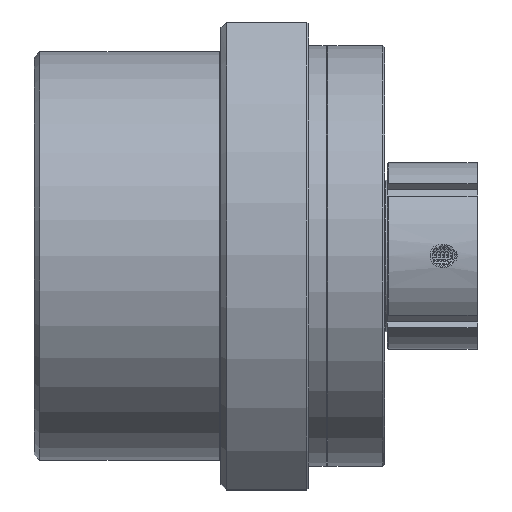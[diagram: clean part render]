
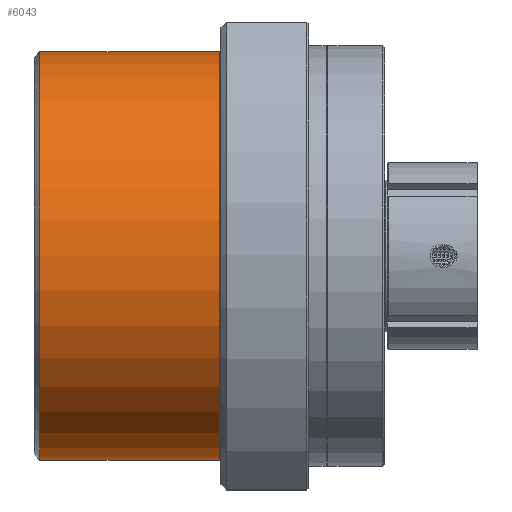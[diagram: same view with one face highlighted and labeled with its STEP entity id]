
A CAD part, top view. The second image highlights one B-rep face of the part: STEP entity #6043.
In plain terms, the highlighted cylindrical face has radius 35 mm (diameter 70 mm), a full revolution.
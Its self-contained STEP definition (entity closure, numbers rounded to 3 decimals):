
#3577=EDGE_CURVE('',#9626,#9626,#9627,.T.);
#5947=EDGE_CURVE('',#13465,#13465,#13466,.T.);
#6043=ADVANCED_FACE('',(#13613,#13614),#13615,.T.);
#9626=VERTEX_POINT('',#19138);
#9627=CIRCLE('',#19139,35.0);
#13465=VERTEX_POINT('',#25384);
#13466=CIRCLE('',#25385,35.0);
#13613=FACE_OUTER_BOUND('',#25612,.T.);
#13614=FACE_OUTER_BOUND('',#25613,.T.);
#13615=CYLINDRICAL_SURFACE('',#25614,35.0);
#19138=CARTESIAN_POINT('',(1.0,0.0,35.0));
#19139=AXIS2_PLACEMENT_3D('',#32408,#32409,#32410);
#25384=CARTESIAN_POINT('',(31.7,0.0,35.0));
#25385=AXIS2_PLACEMENT_3D('',#37002,#37003,#37004);
#25612=EDGE_LOOP('',(#37169));
#25613=EDGE_LOOP('',(#37170));
#25614=AXIS2_PLACEMENT_3D('',#37171,#37172,#37173);
#32408=CARTESIAN_POINT('',(1.0,0.0,0.0));
#32409=DIRECTION('',(1.0,0.0,-0.0));
#32410=DIRECTION('',(0.0,0.0,1.0));
#37002=CARTESIAN_POINT('',(31.7,0.0,0.0));
#37003=DIRECTION('',(1.0,0.0,-0.0));
#37004=DIRECTION('',(0.0,0.0,1.0));
#37169=ORIENTED_EDGE('',*,*,#3577,.T.);
#37170=ORIENTED_EDGE('',*,*,#5947,.F.);
#37171=CARTESIAN_POINT('',(16.35,0.0,0.0));
#37172=DIRECTION('',(-1.0,0.0,0.0));
#37173=DIRECTION('',(0.0,0.0,1.0));
